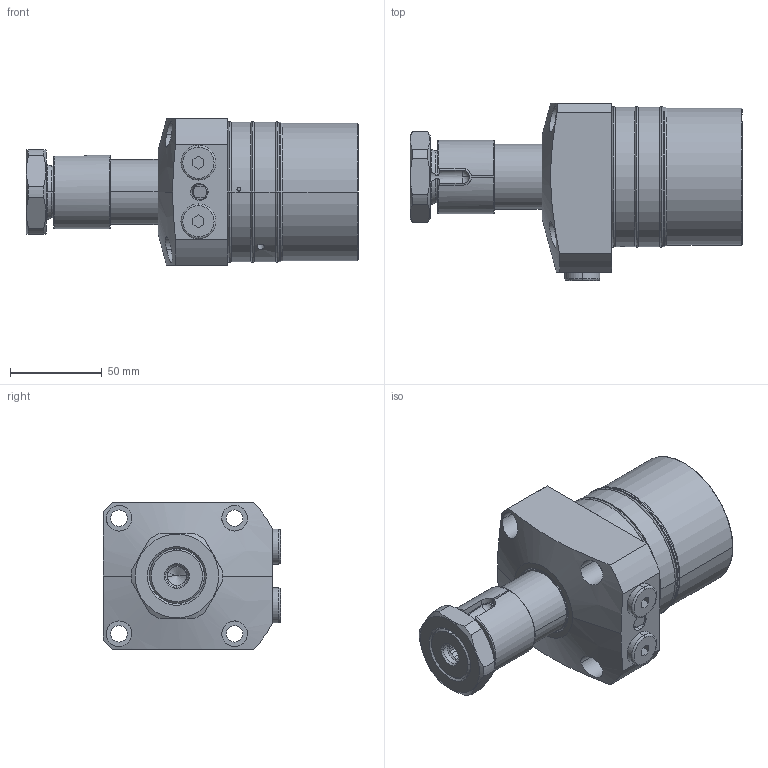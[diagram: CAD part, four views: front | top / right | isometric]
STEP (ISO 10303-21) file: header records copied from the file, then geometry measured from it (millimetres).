
FILE_DESCRIPTION(/* description */ (''),/* implementation_level */ '2;1');
FILE_NAME(/* name */ 'KTRW75-RE.stp',/* time_stamp */ '2022-11-18T11:29:41+08:00',/* author */ (''),/* organization */ (''),/* preprocessor_version */ 'ST-DEVELOPER v16.7',/* originating_system */ 'SIEMENS PLM Software NX 12.0',/* authorisation */ '');
FILE_SCHEMA (('AP203_CONFIGURATION_CONTROLLED_3D_DESIGN_OF_MECHANICAL_PARTS_AND_ASSEMBLIES_MIM_LF { 1 0 10303 403 2 1 2}'));
Length unit declared in the file: millimetre
Products named in the file (7): KTRW75-RE-06; KTRW75-RE-01; KTRW75-RE-03; KTRW75-RE-04; KTRW75-RE-02; KTRW75-RE-05; LHW0751-CLE_step
Assembly tree (9 placements, depth 2):
  LHW0751-CLE_step
    KTRW75-RE-05  x2
    KTRW75-RE-02  x3
    KTRW75-RE-04
    KTRW75-RE-03
    KTRW75-RE-01
    KTRW75-RE-06
Bounding box: 181 x 96.5 x 80 mm (x, y, z)
Volume: 614715.9 mm3; surface area: 81879.4 mm2
Topology: 12 solids, 12 shells, 394 faces, 880 edges, 538 vertices
Faces by surface type: cylinder 118, plane 112, torus 91, cone 71, sphere 2
Entity records: 10539 total; most frequent: CARTESIAN_POINT 2217, DIRECTION 1689, ORIENTED_EDGE 1460, EDGE_CURVE 730, AXIS2_PLACEMENT_3D 716, VERTEX_POINT 450, CIRCLE 383, EDGE_LOOP 366
